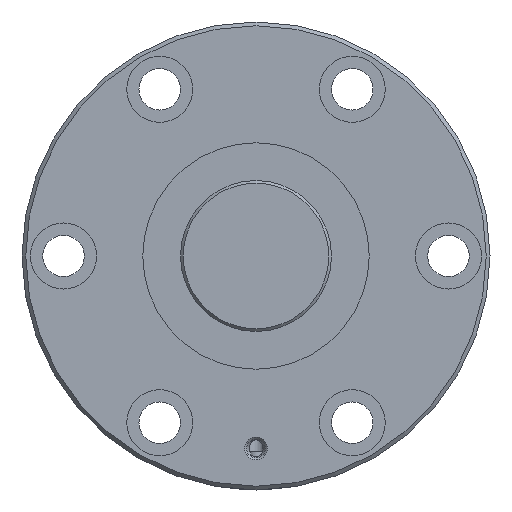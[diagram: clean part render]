
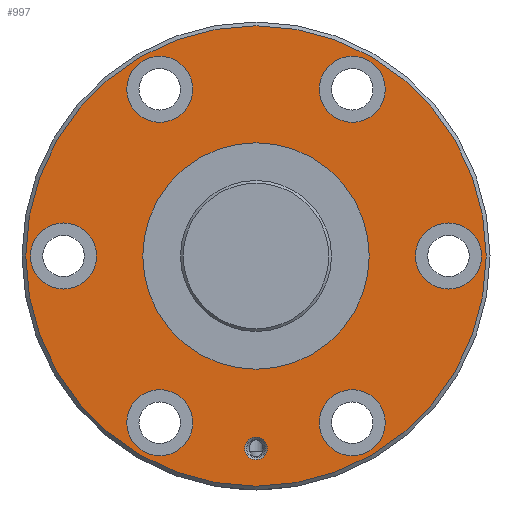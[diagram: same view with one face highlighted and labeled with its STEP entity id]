
A CAD part, left-side view. The second image highlights one B-rep face of the part: STEP entity #997.
In plain terms, the highlighted planar face has unit normal (-1, 0, 0).
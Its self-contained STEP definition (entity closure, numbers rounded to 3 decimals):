
#155=ORIENTED_EDGE('',*,*,#368,.T.);
#156=ORIENTED_EDGE('',*,*,#369,.T.);
#157=ORIENTED_EDGE('',*,*,#370,.T.);
#158=ORIENTED_EDGE('',*,*,#371,.T.);
#159=ORIENTED_EDGE('',*,*,#372,.T.);
#160=ORIENTED_EDGE('',*,*,#373,.T.);
#161=ORIENTED_EDGE('',*,*,#374,.T.);
#162=ORIENTED_EDGE('',*,*,#375,.T.);
#163=ORIENTED_EDGE('',*,*,#367,.F.);
#367=EDGE_CURVE('',#477,#477,#570,.T.);
#368=EDGE_CURVE('',#478,#478,#571,.T.);
#369=EDGE_CURVE('',#479,#479,#572,.F.);
#370=EDGE_CURVE('',#480,#480,#573,.T.);
#371=EDGE_CURVE('',#481,#481,#574,.T.);
#372=EDGE_CURVE('',#482,#482,#575,.T.);
#373=EDGE_CURVE('',#483,#483,#576,.T.);
#374=EDGE_CURVE('',#484,#484,#577,.T.);
#375=EDGE_CURVE('',#485,#485,#578,.T.);
#477=VERTEX_POINT('',#1668);
#478=VERTEX_POINT('',#1671);
#479=VERTEX_POINT('',#1673);
#480=VERTEX_POINT('',#1675);
#481=VERTEX_POINT('',#1677);
#482=VERTEX_POINT('',#1679);
#483=VERTEX_POINT('',#1681);
#484=VERTEX_POINT('',#1683);
#485=VERTEX_POINT('',#1685);
#570=CIRCLE('',#1111,61.);
#571=CIRCLE('',#1113,30.);
#572=CIRCLE('',#1114,8.75);
#573=CIRCLE('',#1115,3.);
#574=CIRCLE('',#1116,8.75);
#575=CIRCLE('',#1117,8.75);
#576=CIRCLE('',#1118,8.75);
#577=CIRCLE('',#1119,8.75);
#578=CIRCLE('',#1120,8.75);
#658=EDGE_LOOP('',(#155));
#659=EDGE_LOOP('',(#156));
#660=EDGE_LOOP('',(#157));
#661=EDGE_LOOP('',(#158));
#662=EDGE_LOOP('',(#159));
#663=EDGE_LOOP('',(#160));
#664=EDGE_LOOP('',(#161));
#665=EDGE_LOOP('',(#162));
#666=EDGE_LOOP('',(#163));
#818=FACE_BOUND('',#658,.T.);
#819=FACE_BOUND('',#659,.T.);
#820=FACE_BOUND('',#660,.T.);
#821=FACE_BOUND('',#661,.T.);
#822=FACE_BOUND('',#662,.T.);
#823=FACE_BOUND('',#663,.T.);
#824=FACE_BOUND('',#664,.T.);
#825=FACE_BOUND('',#665,.T.);
#826=FACE_BOUND('',#666,.T.);
#960=PLANE('',#1112);
#997=ADVANCED_FACE('',(#818,#819,#820,#821,#822,#823,#824,#825,#826),#960,
 .T.);
#1111=AXIS2_PLACEMENT_3D('',#1667,#1295,#1296);
#1112=AXIS2_PLACEMENT_3D('',#1669,#1297,#1298);
#1113=AXIS2_PLACEMENT_3D('',#1670,#1299,#1300);
#1114=AXIS2_PLACEMENT_3D('',#1672,#1301,#1302);
#1115=AXIS2_PLACEMENT_3D('',#1674,#1303,#1304);
#1116=AXIS2_PLACEMENT_3D('',#1676,#1305,#1306);
#1117=AXIS2_PLACEMENT_3D('',#1678,#1307,#1308);
#1118=AXIS2_PLACEMENT_3D('',#1680,#1309,#1310);
#1119=AXIS2_PLACEMENT_3D('',#1682,#1311,#1312);
#1120=AXIS2_PLACEMENT_3D('',#1684,#1313,#1314);
#1295=DIRECTION('',(1.,0.,0.));
#1296=DIRECTION('',(0.,0.,-1.));
#1297=DIRECTION('',(-1.,0.,0.));
#1298=DIRECTION('',(0.,0.,1.));
#1299=DIRECTION('',(1.,0.,0.));
#1300=DIRECTION('',(0.,0.,-1.));
#1301=DIRECTION('',(-1.,0.,0.));
#1302=DIRECTION('',(0.,0.,1.));
#1303=DIRECTION('',(1.,0.,0.));
#1304=DIRECTION('',(0.,0.,-1.));
#1305=DIRECTION('',(1.,0.,0.));
#1306=DIRECTION('',(0.,0.,-1.));
#1307=DIRECTION('',(1.,0.,0.));
#1308=DIRECTION('',(0.,0.,-1.));
#1309=DIRECTION('',(1.,0.,0.));
#1310=DIRECTION('',(0.,0.,-1.));
#1311=DIRECTION('',(1.,0.,0.));
#1312=DIRECTION('',(0.,0.,-1.));
#1313=DIRECTION('',(1.,0.,0.));
#1314=DIRECTION('',(0.,0.,-1.));
#1667=CARTESIAN_POINT('',(0.,0.,0.));
#1668=CARTESIAN_POINT('',(0.,0.,-61.));
#1669=CARTESIAN_POINT('',(0.,61.,0.));
#1670=CARTESIAN_POINT('',(0.,0.,0.));
#1671=CARTESIAN_POINT('',(0.,0.,-30.));
#1672=CARTESIAN_POINT('',(0.,51.,0.));
#1673=CARTESIAN_POINT('',(0.,51.,8.75));
#1674=CARTESIAN_POINT('',(0.,0.,-51.));
#1675=CARTESIAN_POINT('',(0.,0.,-54.));
#1676=CARTESIAN_POINT('',(0.,-51.,0.));
#1677=CARTESIAN_POINT('',(0.,-51.,-8.75));
#1678=CARTESIAN_POINT('',(0.,25.5,44.167));
#1679=CARTESIAN_POINT('',(0.,25.5,35.417));
#1680=CARTESIAN_POINT('',(0.,-25.5,-44.167));
#1681=CARTESIAN_POINT('',(0.,-25.5,-52.917));
#1682=CARTESIAN_POINT('',(0.,-25.5,44.167));
#1683=CARTESIAN_POINT('',(0.,-25.5,35.417));
#1684=CARTESIAN_POINT('',(0.,25.5,-44.167));
#1685=CARTESIAN_POINT('',(0.,25.5,-52.917));
